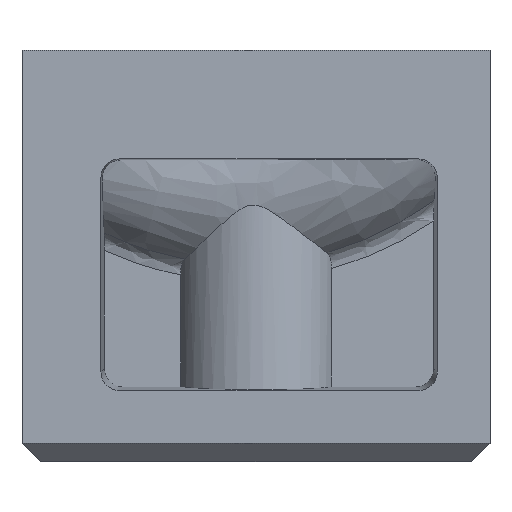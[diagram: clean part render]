
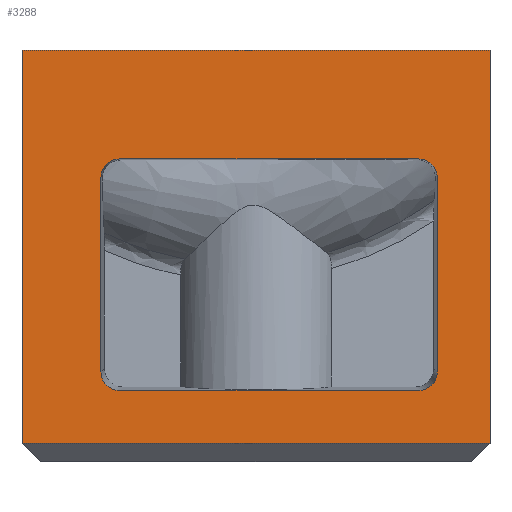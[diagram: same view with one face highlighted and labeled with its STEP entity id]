
A CAD part, front view. The second image highlights one B-rep face of the part: STEP entity #3288.
In plain terms, the highlighted planar face has unit normal (0, -1, 0).
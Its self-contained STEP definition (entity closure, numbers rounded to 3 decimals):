
#226=DIRECTION('',(-1.,0.,0.));
#227=VECTOR('',#226,25.);
#228=CARTESIAN_POINT('',(22.1,-5.,3.));
#229=LINE('',#228,#227);
#734=DIRECTION('',(-1.,0.,0.));
#735=VECTOR('',#734,25.);
#736=CARTESIAN_POINT('',(22.1,-5.,-18.));
#737=LINE('',#736,#735);
#738=DIRECTION('',(0.,0.,-1.));
#739=VECTOR('',#738,21.);
#740=CARTESIAN_POINT('',(22.1,-5.,3.));
#741=LINE('',#740,#739);
#742=DIRECTION('',(-1.,0.,0.));
#743=VECTOR('',#742,15.969);
#744=CARTESIAN_POINT('',(18.285,-5.,-2.817));
#745=LINE('',#744,#743);
#746=DIRECTION('',(0.,0.,-1.));
#747=VECTOR('',#746,10.369);
#748=CARTESIAN_POINT('',(1.317,-5.,-3.815));
#749=LINE('',#748,#747);
#750=DIRECTION('',(1.,0.,0.));
#751=VECTOR('',#750,15.969);
#752=CARTESIAN_POINT('',(2.315,-5.,-15.183));
#753=LINE('',#752,#751);
#754=DIRECTION('',(0.,0.,1.));
#755=VECTOR('',#754,10.369);
#756=CARTESIAN_POINT('',(19.283,-5.,-14.185));
#757=LINE('',#756,#755);
#762=DIRECTION('',(0.,0.,-1.));
#763=VECTOR('',#762,21.);
#764=CARTESIAN_POINT('',(-2.9,-5.,3.));
#765=LINE('',#764,#763);
#774=CARTESIAN_POINT('',(18.285,-5.,-2.817));
#775=CARTESIAN_POINT('',(18.361,-5.,-2.817));
#776=CARTESIAN_POINT('',(18.509,-5.,-2.833));
#777=CARTESIAN_POINT('',(18.722,-5.,-2.908));
#778=CARTESIAN_POINT('',(18.913,-5.,-3.028));
#779=CARTESIAN_POINT('',(19.072,-5.,-3.187));
#780=CARTESIAN_POINT('',(19.192,-5.,-3.378));
#781=CARTESIAN_POINT('',(19.267,-5.,-3.591));
#782=CARTESIAN_POINT('',(19.283,-5.,-3.739));
#783=CARTESIAN_POINT('',(19.283,-5.,-3.815));
#797=CARTESIAN_POINT('',(19.283,-5.,-14.185));
#798=CARTESIAN_POINT('',(19.283,-5.,-14.261));
#799=CARTESIAN_POINT('',(19.267,-5.,-14.409));
#800=CARTESIAN_POINT('',(19.192,-5.,-14.622));
#801=CARTESIAN_POINT('',(19.072,-5.,-14.813));
#802=CARTESIAN_POINT('',(18.913,-5.,-14.972));
#803=CARTESIAN_POINT('',(18.722,-5.,-15.092));
#804=CARTESIAN_POINT('',(18.509,-5.,-15.167));
#805=CARTESIAN_POINT('',(18.361,-5.,-15.183));
#806=CARTESIAN_POINT('',(18.285,-5.,-15.183));
#853=CARTESIAN_POINT('',(2.315,-5.,-15.183));
#854=CARTESIAN_POINT('',(2.239,-5.,-15.183));
#855=CARTESIAN_POINT('',(2.091,-5.,-15.167));
#856=CARTESIAN_POINT('',(1.878,-5.,-15.092));
#857=CARTESIAN_POINT('',(1.687,-5.,-14.972));
#858=CARTESIAN_POINT('',(1.528,-5.,-14.813));
#859=CARTESIAN_POINT('',(1.408,-5.,-14.622));
#860=CARTESIAN_POINT('',(1.333,-5.,-14.409));
#861=CARTESIAN_POINT('',(1.317,-5.,-14.261));
#862=CARTESIAN_POINT('',(1.317,-5.,-14.185));
#887=CARTESIAN_POINT('',(1.317,-5.,-3.815));
#888=CARTESIAN_POINT('',(1.317,-5.,-3.739));
#889=CARTESIAN_POINT('',(1.333,-5.,-3.591));
#890=CARTESIAN_POINT('',(1.408,-5.,-3.378));
#891=CARTESIAN_POINT('',(1.528,-5.,-3.187));
#892=CARTESIAN_POINT('',(1.687,-5.,-3.028));
#893=CARTESIAN_POINT('',(1.878,-5.,-2.908));
#894=CARTESIAN_POINT('',(2.091,-5.,-2.833));
#895=CARTESIAN_POINT('',(2.239,-5.,-2.817));
#896=CARTESIAN_POINT('',(2.315,-5.,-2.817));
#1383=CARTESIAN_POINT('',(22.1,-5.,-18.));
#1384=VERTEX_POINT('',#1383);
#1387=CARTESIAN_POINT('',(-2.9,-5.,-18.));
#1388=VERTEX_POINT('',#1387);
#1412=CARTESIAN_POINT('',(22.1,-5.,3.));
#1413=VERTEX_POINT('',#1412);
#1421=CARTESIAN_POINT('',(-2.9,-5.,3.));
#1422=VERTEX_POINT('',#1421);
#1442=CARTESIAN_POINT('',(18.285,-5.,
-2.817));
#1443=CARTESIAN_POINT('',(2.315,-5.,
-2.817));
#1444=VERTEX_POINT('',#1442);
#1445=VERTEX_POINT('',#1443);
#1446=VERTEX_POINT('',#887);
#1447=CARTESIAN_POINT('',(1.317,-5.,
-14.185));
#1448=VERTEX_POINT('',#1447);
#1449=VERTEX_POINT('',#853);
#1450=CARTESIAN_POINT('',(18.285,-5.,
-15.183));
#1451=VERTEX_POINT('',#1450);
#1452=VERTEX_POINT('',#797);
#1453=CARTESIAN_POINT('',(19.283,-5.,
-3.815));
#1454=VERTEX_POINT('',#1453);
#3258=CARTESIAN_POINT('',(-2.9,-5.,-19.));
#3259=DIRECTION('',(0.,-1.,0.));
#3260=DIRECTION('',(1.,0.,0.));
#3261=AXIS2_PLACEMENT_3D('',#3258,#3259,#3260);
#3262=PLANE('',#3261);
#3263=ORIENTED_EDGE('',*,*,#1704,.T.);
#3265=ORIENTED_EDGE('',*,*,#3264,.F.);
#3266=ORIENTED_EDGE('',*,*,#1818,.F.);
#3267=ORIENTED_EDGE('',*,*,#1781,.T.);
#3268=EDGE_LOOP('',(#3263,#3265,#3266,#3267));
#3269=FACE_OUTER_BOUND('',#3268,.F.);
#3271=ORIENTED_EDGE('',*,*,#3270,.T.);
#3273=ORIENTED_EDGE('',*,*,#3272,.F.);
#3275=ORIENTED_EDGE('',*,*,#3274,.T.);
#3277=ORIENTED_EDGE('',*,*,#3276,.F.);
#3279=ORIENTED_EDGE('',*,*,#3278,.T.);
#3281=ORIENTED_EDGE('',*,*,#3280,.F.);
#3283=ORIENTED_EDGE('',*,*,#3282,.T.);
#3285=ORIENTED_EDGE('',*,*,#3284,.F.);
#3286=EDGE_LOOP('',(#3271,#3273,#3275,#3277,#3279,#3281,#3283,#3285));
#3287=FACE_BOUND('',#3286,.F.);
#3288=ADVANCED_FACE('',(#3269,#3287),#3262,.T.);
#784=B_SPLINE_CURVE_WITH_KNOTS('',3,(#774,#775,#776,#777,#778,#779,#780,#781,
#782,#783),.UNSPECIFIED.,.F.,.F.,(4,1,1,1,1,1,1,4),(0.,0.143,
0.286,0.429,0.571,0.714,
0.857,1.),.UNSPECIFIED.);
#807=B_SPLINE_CURVE_WITH_KNOTS('',3,(#797,#798,#799,#800,#801,#802,#803,#804,
#805,#806),.UNSPECIFIED.,.F.,.F.,(4,1,1,1,1,1,1,4),(0.,0.143,
0.286,0.429,0.571,0.714,
0.857,1.),.UNSPECIFIED.);
#863=B_SPLINE_CURVE_WITH_KNOTS('',3,(#853,#854,#855,#856,#857,#858,#859,#860,
#861,#862),.UNSPECIFIED.,.F.,.F.,(4,1,1,1,1,1,1,4),(0.,0.143,
0.286,0.429,0.571,0.714,
0.857,1.),.UNSPECIFIED.);
#897=B_SPLINE_CURVE_WITH_KNOTS('',3,(#887,#888,#889,#890,#891,#892,#893,#894,
#895,#896),.UNSPECIFIED.,.F.,.F.,(4,1,1,1,1,1,1,4),(0.,0.143,
0.286,0.429,0.571,0.714,
0.857,1.),.UNSPECIFIED.);
#1704=EDGE_CURVE('',#1384,#1388,#737,.T.);
#1781=EDGE_CURVE('',#1413,#1384,#741,.T.);
#1818=EDGE_CURVE('',#1413,#1422,#229,.T.);
#3264=EDGE_CURVE('',#1422,#1388,#765,.T.);
#3270=EDGE_CURVE('',#1444,#1445,#745,.T.);
#3272=EDGE_CURVE('',#1446,#1445,#897,.T.);
#3274=EDGE_CURVE('',#1446,#1448,#749,.T.);
#3276=EDGE_CURVE('',#1449,#1448,#863,.T.);
#3278=EDGE_CURVE('',#1449,#1451,#753,.T.);
#3280=EDGE_CURVE('',#1452,#1451,#807,.T.);
#3282=EDGE_CURVE('',#1452,#1454,#757,.T.);
#3284=EDGE_CURVE('',#1444,#1454,#784,.T.);
